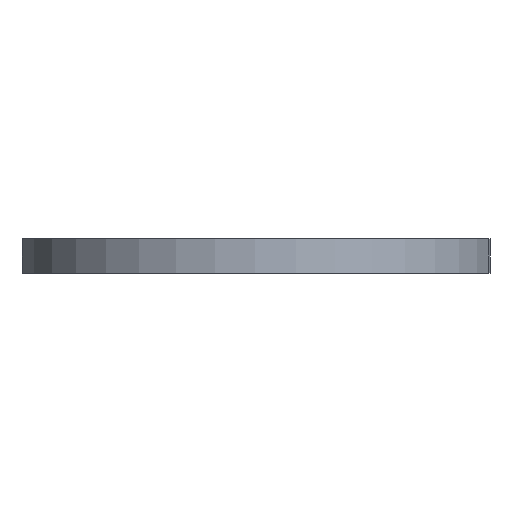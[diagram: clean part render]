
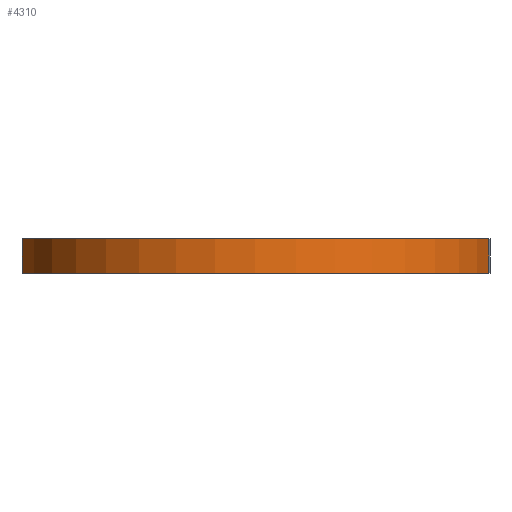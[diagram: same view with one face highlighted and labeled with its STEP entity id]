
A CAD part, left-side view. The second image highlights one B-rep face of the part: STEP entity #4310.
In plain terms, the highlighted cylindrical face has radius 88.9 mm (diameter 177.8 mm), a partial arc.
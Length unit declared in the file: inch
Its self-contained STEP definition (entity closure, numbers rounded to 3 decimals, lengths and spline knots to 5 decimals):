
#2493 = DIRECTION ( 'NONE',  ( 1., 0., 0. ) ) ;
#2494 = DIRECTION ( 'NONE',  ( 0., 0., 1. ) ) ;
#2495 = CARTESIAN_POINT ( 'NONE',  ( 0., 0., 0.5 ) ) ;
#2496 = AXIS2_PLACEMENT_3D ( 'NONE', #2495, #2494, #2493 ) ;
#2497 = CIRCLE ( 'NONE', #2496, 3.5 ) ;
#2498 = CARTESIAN_POINT ( 'NONE',  ( 3.4187, 0.75, 0.5 ) ) ;
#2509 = CARTESIAN_POINT ( 'NONE',  ( -3.4187, 0.75, 0.5 ) ) ;
#3281 = CARTESIAN_POINT ( 'NONE',  ( -3.4187, 0.75, 0. ) ) ;
#3303 = DIRECTION ( 'NONE',  ( 0., 0., -1. ) ) ;
#3304 = VECTOR ( 'NONE', #3303, 39.37008 ) ;
#3305 = CARTESIAN_POINT ( 'NONE',  ( 3.4187, 0.75, 0.5 ) ) ;
#3306 = LINE ( 'NONE', #3305, #3304 ) ;
#3307 = DIRECTION ( 'NONE',  ( 1., 0., 0. ) ) ;
#3308 = DIRECTION ( 'NONE',  ( 0., 0., 1. ) ) ;
#3309 = CARTESIAN_POINT ( 'NONE',  ( 0., 0., 0. ) ) ;
#3310 = AXIS2_PLACEMENT_3D ( 'NONE', #3309, #3308, #3307 ) ;
#3311 = CIRCLE ( 'NONE', #3310, 3.5 ) ;
#3312 = CARTESIAN_POINT ( 'NONE',  ( 3.4187, 0.75, 0. ) ) ;
#3315 = DIRECTION ( 'NONE',  ( 0., 0., 1. ) ) ;
#3316 = VECTOR ( 'NONE', #3315, 39.37008 ) ;
#3317 = CARTESIAN_POINT ( 'NONE',  ( -3.4187, 0.75, 0.5 ) ) ;
#3318 = LINE ( 'NONE', #3317, #3316 ) ;
#3363 = DIRECTION ( 'NONE',  ( -1., 0., 0. ) ) ;
#3364 = DIRECTION ( 'NONE',  ( 0., 0., -1. ) ) ;
#3365 = CARTESIAN_POINT ( 'NONE',  ( 0., 0., 0.5 ) ) ;
#3366 = AXIS2_PLACEMENT_3D ( 'NONE', #3365, #3364, #3363 ) ;
#3367 = CYLINDRICAL_SURFACE ( 'NONE', #3366, 3.5 ) ;
#3368 = FACE_OUTER_BOUND ( 'NONE', #3932, .T. ) ;
#3888 = VERTEX_POINT ( 'NONE', #2509 ) ;
#3889 = ORIENTED_EDGE ( 'NONE', *, *, #4297, .T. ) ;
#3895 = VERTEX_POINT ( 'NONE', #2498 ) ;
#3896 = EDGE_CURVE ( 'NONE', #3895, #3888, #2497, .T. ) ;
#3926 = ORIENTED_EDGE ( 'NONE', *, *, #3896, .F. ) ;
#3932 = EDGE_LOOP ( 'NONE', ( #3926, #3889, #4295, #4273 ) ) ;
#4273 = ORIENTED_EDGE ( 'NONE', *, *, #4291, .T. ) ;
#4274 = VERTEX_POINT ( 'NONE', #3281 ) ;
#4291 = EDGE_CURVE ( 'NONE', #4274, #3888, #3318, .T. ) ;
#4294 = VERTEX_POINT ( 'NONE', #3312 ) ;
#4295 = ORIENTED_EDGE ( 'NONE', *, *, #4296, .T. ) ;
#4296 = EDGE_CURVE ( 'NONE', #4294, #4274, #3311, .T. ) ;
#4297 = EDGE_CURVE ( 'NONE', #3895, #4294, #3306, .T. ) ;
#4310 = ADVANCED_FACE ( 'NONE', ( #3368 ), #3367, .T. ) ;
